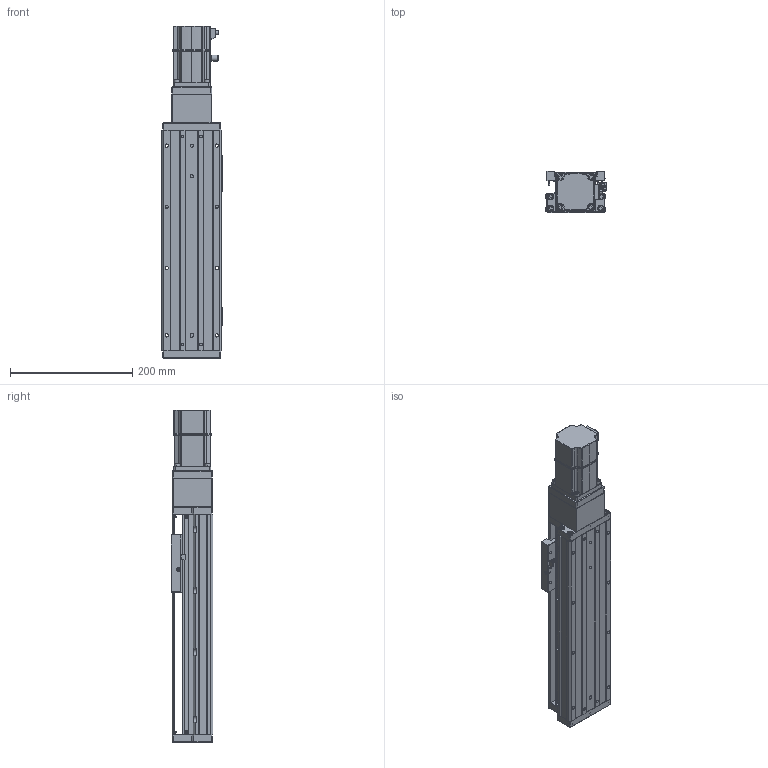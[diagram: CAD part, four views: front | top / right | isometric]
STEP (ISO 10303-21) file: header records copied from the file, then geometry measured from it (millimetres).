
FILE_DESCRIPTION (( 'STEP AP203' ), '1' );
FILE_NAME ('KTHA100-200-BC-M20-C4L.step', '2022-04-26T01:43:39', ( '微软用户' ), ( '微软中国' ), 'SwSTEP 2.0', 'SolidWorks 2020', '' );
FILE_SCHEMA (( 'CONFIG_CONTROL_DESIGN' ));
Length unit declared in the file: millimetre
Products named in the file (18): EE_SX911P_R; GBT 70.3-M3℅6; CTHA60-017; _X2_4E0983F1_X0_200W_1; KTHA100-001_360; CTHA60-021; CTHA86-013; KTHA100-002; GBT77-2000 M3×3; CTHA86-027; KTHA100-004; GBT 70.1-M3℅6; CTHA86-006-1_CTHA86-006-2; KTHA100-005; GBT70.1 M5℅16; KTHA100-200-BC-M20-C4L; GB¨uT 70.2-M3¡Á5_M3¡Á6; CTHA60-016
Assembly tree (56 placements, depth 2):
  KTHA100-200-BC-M20-C4L
    KTHA100-001_360
    KTHA100-002
    KTHA100-004
    KTHA100-005
    GB¨uT 70.2-M3¡Á5_M3¡Á6  x6
    EE_SX911P_R  x3
    CTHA60-017  x3
    CTHA60-021  x2
    GBT77-2000 M3×3  x6
    GBT 70.1-M3℅6  x6
    GBT70.1 M5℅16  x14
    CTHA60-016  x2
    GBT 70.3-M3℅6  x6
    _X2_4E0983F1_X0_200W_1
    CTHA86-013
    CTHA86-027
    CTHA86-006-1_CTHA86-006-2
Bounding box: 98.82 x 68 x 542.5 mm (x, y, z)
Volume: 2101499.7 mm3; surface area: 366605.5 mm2
Topology: 59 solids, 59 shells, 2327 faces, 5520 edges, 3400 vertices
Faces by surface type: plane 1179, cylinder 637, cone 322, torus 104, bspline 69, sphere 16
Entity records: 39014 total; most frequent: CARTESIAN_POINT 7527, DIRECTION 6109, ORIENTED_EDGE 5808, EDGE_CURVE 2904, AXIS2_PLACEMENT_3D 2154, VERTEX_POINT 1818, LINE 1801, VECTOR 1801
